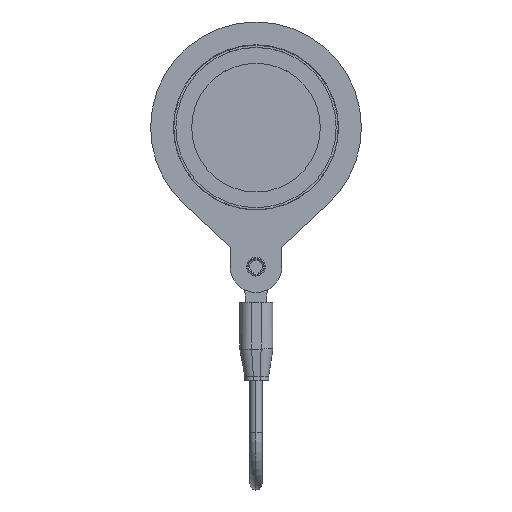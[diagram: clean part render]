
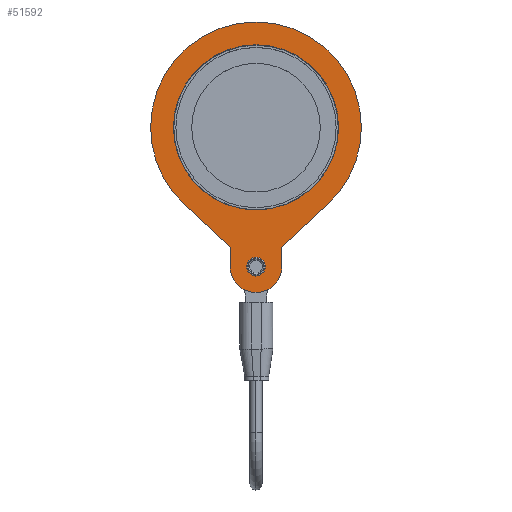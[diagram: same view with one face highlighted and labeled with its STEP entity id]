
A CAD part, top view. The second image highlights one B-rep face of the part: STEP entity #51592.
In plain terms, the highlighted planar face has unit normal (0, 0, 1) as drawn and (0, 0, -1) by its records, which use the part's own axes.
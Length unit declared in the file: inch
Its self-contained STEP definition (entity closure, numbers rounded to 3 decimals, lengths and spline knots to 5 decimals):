
#199 = CARTESIAN_POINT ( 'NONE',  ( 0.20079, -0.93307, -0.01378 ) ) ;
#538 = EDGE_CURVE ( 'NONE', #49222, #52928, #34187, .T. ) ;
#1239 = ORIENTED_EDGE ( 'NONE', *, *, #45435, .F. ) ;
#1282 = CIRCLE ( 'NONE', #6252, 0.64173 ) ;
#2624 = DIRECTION ( 'NONE',  ( 1., 0., 0. ) ) ;
#2923 = ORIENTED_EDGE ( 'NONE', *, *, #55307, .T. ) ;
#3075 = CARTESIAN_POINT ( 'NONE',  ( 0., 0., -0.01378 ) ) ;
#3245 = CARTESIAN_POINT ( 'NONE',  ( 0.20079, -0.93307, -0.01378 ) ) ;
#3387 = CIRCLE ( 'NONE', #42295, 0.20079 ) ;
#4133 = EDGE_CURVE ( 'NONE', #43759, #6794, #55676, .T. ) ;
#4985 = EDGE_CURVE ( 'NONE', #19762, #6212, #60728, .T. ) ;
#5089 = FACE_BOUND ( 'NONE', #6800, .T. ) ;
#6107 = CIRCLE ( 'NONE', #11073, 0.8189 ) ;
#6212 = VERTEX_POINT ( 'NONE', #16541 ) ;
#6252 = AXIS2_PLACEMENT_3D ( 'NONE', #14345, #42180, #14037 ) ;
#6688 = DIRECTION ( 'NONE',  ( 0., 0., 1. ) ) ;
#6720 = EDGE_CURVE ( 'NONE', #36191, #47968, #8840, .T. ) ;
#6794 = VERTEX_POINT ( 'NONE', #53534 ) ;
#6800 = EDGE_LOOP ( 'NONE', ( #14968, #50623 ) ) ;
#6815 = ORIENTED_EDGE ( 'NONE', *, *, #538, .T. ) ;
#8790 = CIRCLE ( 'NONE', #47745, 0.64173 ) ;
#8840 = LINE ( 'NONE', #3245, #35755 ) ;
#9088 = CARTESIAN_POINT ( 'NONE',  ( 0.06102, -1.08268, -0.01378 ) ) ;
#10857 = ORIENTED_EDGE ( 'NONE', *, *, #4133, .F. ) ;
#11073 = AXIS2_PLACEMENT_3D ( 'NONE', #61141, #46746, #32364 ) ;
#11290 = VERTEX_POINT ( 'NONE', #18891 ) ;
#13818 = DIRECTION ( 'NONE',  ( 0., -1., 0. ) ) ;
#14037 = DIRECTION ( 'NONE',  ( 1., 0., 0. ) ) ;
#14181 = PLANE ( 'NONE',  #15564 ) ;
#14297 = ORIENTED_EDGE ( 'NONE', *, *, #31949, .F. ) ;
#14345 = CARTESIAN_POINT ( 'NONE',  ( 0., 0., -0.01378 ) ) ;
#14435 = ORIENTED_EDGE ( 'NONE', *, *, #58679, .F. ) ;
#14968 = ORIENTED_EDGE ( 'NONE', *, *, #43104, .T. ) ;
#15564 = AXIS2_PLACEMENT_3D ( 'NONE', #33240, #37928, #32638 ) ;
#15646 = VECTOR ( 'NONE', #17067, 39.37008 ) ;
#16541 = CARTESIAN_POINT ( 'NONE',  ( 0.8189, 0., -0.01378 ) ) ;
#17067 = DIRECTION ( 'NONE',  ( 0.731, -0.683, 0. ) ) ;
#18210 = CARTESIAN_POINT ( 'NONE',  ( 0., -1.08268, -0.01378 ) ) ;
#18557 = CIRCLE ( 'NONE', #34543, 0.06102 ) ;
#18891 = CARTESIAN_POINT ( 'NONE',  ( -0.64173, 0., -0.01378 ) ) ;
#19422 = CARTESIAN_POINT ( 'NONE',  ( -0.20079, -0.93307, -0.01378 ) ) ;
#19663 = VECTOR ( 'NONE', #13818, 39.37008 ) ;
#19762 = VERTEX_POINT ( 'NONE', #26881 ) ;
#20546 = CARTESIAN_POINT ( 'NONE',  ( -0.20079, -0.93307, -0.01378 ) ) ;
#21206 = AXIS2_PLACEMENT_3D ( 'NONE', #18210, #56681, #41997 ) ;
#21567 = DIRECTION ( 'NONE',  ( 1., 0., 0. ) ) ;
#22150 = EDGE_CURVE ( 'NONE', #6794, #52279, #39906, .T. ) ;
#24780 = VECTOR ( 'NONE', #42953, 39.37008 ) ;
#26881 = CARTESIAN_POINT ( 'NONE',  ( 0.55903, -0.5984, -0.01378 ) ) ;
#27426 = ORIENTED_EDGE ( 'NONE', *, *, #6720, .F. ) ;
#28572 = LINE ( 'NONE', #52646, #24780 ) ;
#29916 = EDGE_CURVE ( 'NONE', #6212, #43759, #6107, .T. ) ;
#31253 = DIRECTION ( 'NONE',  ( 0., 0., 1. ) ) ;
#31511 = CARTESIAN_POINT ( 'NONE',  ( -0.20079, -1.08268, -0.01378 ) ) ;
#31869 = CARTESIAN_POINT ( 'NONE',  ( 0., 0., -0.01378 ) ) ;
#31949 = EDGE_CURVE ( 'NONE', #47968, #19762, #28572, .T. ) ;
#32174 = EDGE_CURVE ( 'NONE', #11290, #56088, #8790, .T. ) ;
#32364 = DIRECTION ( 'NONE',  ( 1., 0., 0. ) ) ;
#32586 = LINE ( 'NONE', #19422, #19663 ) ;
#32638 = DIRECTION ( 'NONE',  ( 1., 0., 0. ) ) ;
#32692 = CARTESIAN_POINT ( 'NONE',  ( 0., -1.08268, -0.01378 ) ) ;
#33046 = CARTESIAN_POINT ( 'NONE',  ( -0.8189, 0., -0.01378 ) ) ;
#33240 = CARTESIAN_POINT ( 'NONE',  ( 0., -1.08268, -0.01378 ) ) ;
#33633 = CARTESIAN_POINT ( 'NONE',  ( -0.20079, -0.93307, -0.01378 ) ) ;
#34187 = CIRCLE ( 'NONE', #21206, 0.06102 ) ;
#34543 = AXIS2_PLACEMENT_3D ( 'NONE', #32692, #42380, #37075 ) ;
#35219 = VERTEX_POINT ( 'NONE', #31511 ) ;
#35755 = VECTOR ( 'NONE', #37608, 39.37008 ) ;
#35791 = CARTESIAN_POINT ( 'NONE',  ( -0.06102, -1.08268, -0.01378 ) ) ;
#36191 = VERTEX_POINT ( 'NONE', #52272 ) ;
#36334 = DIRECTION ( 'NONE',  ( 0., 0., 1. ) ) ;
#36822 = EDGE_LOOP ( 'NONE', ( #2923, #6815 ) ) ;
#37075 = DIRECTION ( 'NONE',  ( 1., 0., 0. ) ) ;
#37565 = DIRECTION ( 'NONE',  ( 1., 0., 0. ) ) ;
#37608 = DIRECTION ( 'NONE',  ( 0., 1., 0. ) ) ;
#37620 = FACE_BOUND ( 'NONE', #36822, .T. ) ;
#37928 = DIRECTION ( 'NONE',  ( 0., 0., 1. ) ) ;
#39743 = ORIENTED_EDGE ( 'NONE', *, *, #22150, .F. ) ;
#39906 = LINE ( 'NONE', #20546, #15646 ) ;
#40899 = DIRECTION ( 'NONE',  ( 0., 0., 1. ) ) ;
#41971 = CARTESIAN_POINT ( 'NONE',  ( 0., 0., -0.01378 ) ) ;
#41997 = DIRECTION ( 'NONE',  ( 1., 0., 0. ) ) ;
#42180 = DIRECTION ( 'NONE',  ( 0., 0., 1. ) ) ;
#42295 = AXIS2_PLACEMENT_3D ( 'NONE', #60133, #6688, #2624 ) ;
#42380 = DIRECTION ( 'NONE',  ( 0., 0., 1. ) ) ;
#42784 = AXIS2_PLACEMENT_3D ( 'NONE', #3075, #40899, #59972 ) ;
#42934 = FACE_OUTER_BOUND ( 'NONE', #54796, .T. ) ;
#42953 = DIRECTION ( 'NONE',  ( 0.731, 0.683, 0. ) ) ;
#43104 = EDGE_CURVE ( 'NONE', #56088, #11290, #1282, .T. ) ;
#43759 = VERTEX_POINT ( 'NONE', #33046 ) ;
#45435 = EDGE_CURVE ( 'NONE', #35219, #36191, #3387, .T. ) ;
#46746 = DIRECTION ( 'NONE',  ( 0., 0., 1. ) ) ;
#47226 = CARTESIAN_POINT ( 'NONE',  ( 0.64173, 0., -0.01378 ) ) ;
#47745 = AXIS2_PLACEMENT_3D ( 'NONE', #41971, #36334, #37565 ) ;
#47968 = VERTEX_POINT ( 'NONE', #199 ) ;
#49222 = VERTEX_POINT ( 'NONE', #35791 ) ;
#50623 = ORIENTED_EDGE ( 'NONE', *, *, #32174, .T. ) ;
#50685 = AXIS2_PLACEMENT_3D ( 'NONE', #31869, #31253, #21567 ) ;
#51592 = ADVANCED_FACE ( 'NONE', ( #37620, #5089, #42934 ), #14181, .F. ) ;
#52272 = CARTESIAN_POINT ( 'NONE',  ( 0.20079, -1.08268, -0.01378 ) ) ;
#52279 = VERTEX_POINT ( 'NONE', #33633 ) ;
#52646 = CARTESIAN_POINT ( 'NONE',  ( 0.20079, -0.93307, -0.01378 ) ) ;
#52928 = VERTEX_POINT ( 'NONE', #9088 ) ;
#53534 = CARTESIAN_POINT ( 'NONE',  ( -0.55903, -0.5984, -0.01378 ) ) ;
#54634 = ORIENTED_EDGE ( 'NONE', *, *, #29916, .F. ) ;
#54796 = EDGE_LOOP ( 'NONE', ( #1239, #14435, #39743, #10857, #54634, #56776, #14297, #27426 ) ) ;
#55307 = EDGE_CURVE ( 'NONE', #52928, #49222, #18557, .T. ) ;
#55676 = CIRCLE ( 'NONE', #50685, 0.8189 ) ;
#56088 = VERTEX_POINT ( 'NONE', #47226 ) ;
#56681 = DIRECTION ( 'NONE',  ( 0., 0., 1. ) ) ;
#56776 = ORIENTED_EDGE ( 'NONE', *, *, #4985, .F. ) ;
#58679 = EDGE_CURVE ( 'NONE', #52279, #35219, #32586, .T. ) ;
#59972 = DIRECTION ( 'NONE',  ( 1., 0., 0. ) ) ;
#60133 = CARTESIAN_POINT ( 'NONE',  ( 0., -1.08268, -0.01378 ) ) ;
#60728 = CIRCLE ( 'NONE', #42784, 0.8189 ) ;
#61141 = CARTESIAN_POINT ( 'NONE',  ( 0., 0., -0.01378 ) ) ;
